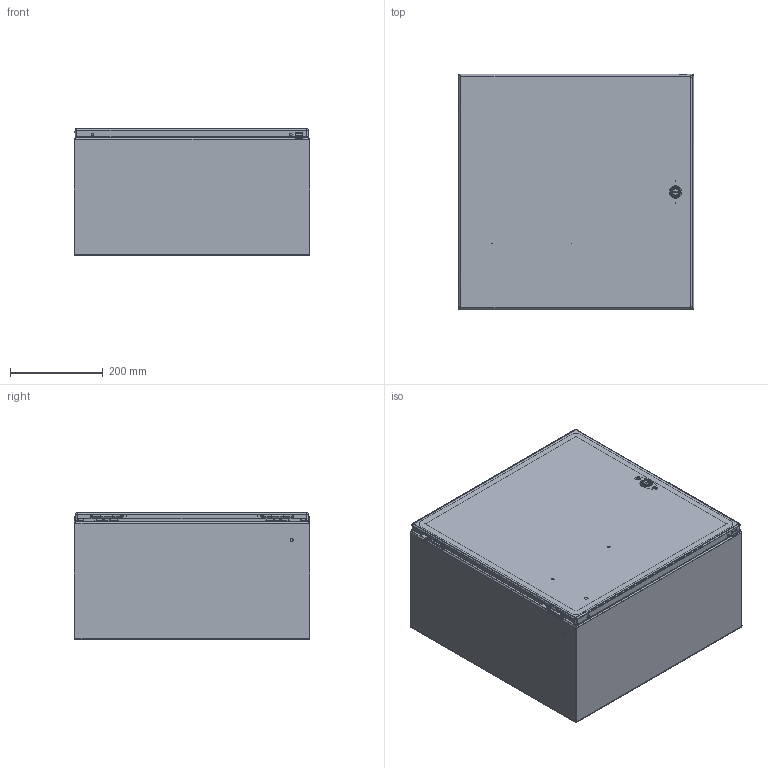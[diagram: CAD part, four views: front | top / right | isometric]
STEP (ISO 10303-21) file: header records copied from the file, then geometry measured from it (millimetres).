
FILE_DESCRIPTION (( 'STEP AP203' ), '1' );
FILE_NAME ('csd202010.STEP', '2012-05-09T15:48:28', ( 'User' ), ( 'Pentair Inc' ), 'SwSTEP 2.0', 'SolidWorks 2010', '' );
FILE_SCHEMA (( 'CONFIG_CONTROL_DESIGN' ));
Length unit declared in the file: inch
Products named in the file (27): 64202001; 64210001; 64203001; 87927840_87927840; 87932903; 64138001; 89057562; 87543027; 89076399; 89076193; 89056623; 87929507; 87929767; 87929769_Installed on Pin; csd202010; 87934542; 87934345_default; 23271001_After Weld; 87937925_assy; 87937965_weldment; 87937911; 99401225; 87931362_87931362; 64101001; 64201001; 87541994_Installed Height; 87541995
Assembly tree (38 placements, depth 4):
  csd202010
    87543027  x2
    89076399  x2
      89056623
      89076193
    87934542
      23271001_After Weld  x4
      87934345_default
      99401225
    87929507  x2
      87929767
      87929769_Installed on Pin
    87937925_assy
      87937965_weldment
        87937911
        99401225
        87931362_87931362  x4
      64138001  x2
      89057562
      87932903  x2
      64101001
        87541995
        64210001
        64203001
        64202001
        87541994_Installed Height
        87927840_87927840
        64201001
Bounding box: 508 x 508.73 x 274.7 mm (x, y, z)
Volume: 1531567.5 mm3; surface area: 2346634.2 mm2
Topology: 35 solids, 35 shells, 1689 faces, 4125 edges, 2490 vertices
Faces by surface type: plane 652, cylinder 547, bspline 288, torus 106, cone 88, sphere 8
Entity records: 46223 total; most frequent: CARTESIAN_POINT 16302, ORIENTED_EDGE 5874, DIRECTION 5117, EDGE_CURVE 2937, AXIS2_PLACEMENT_3D 1833, VERTEX_POINT 1802, VECTOR 1451, LINE 1451
